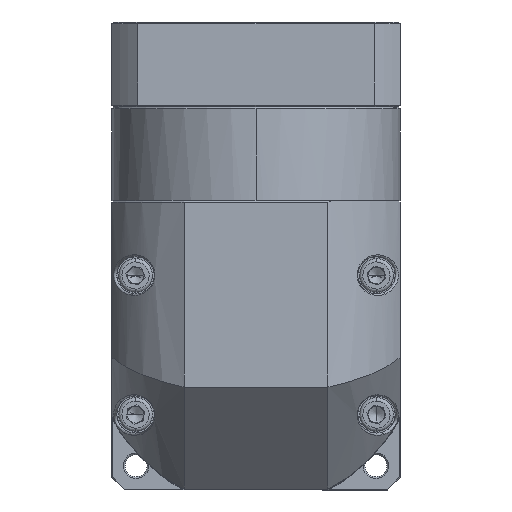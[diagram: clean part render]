
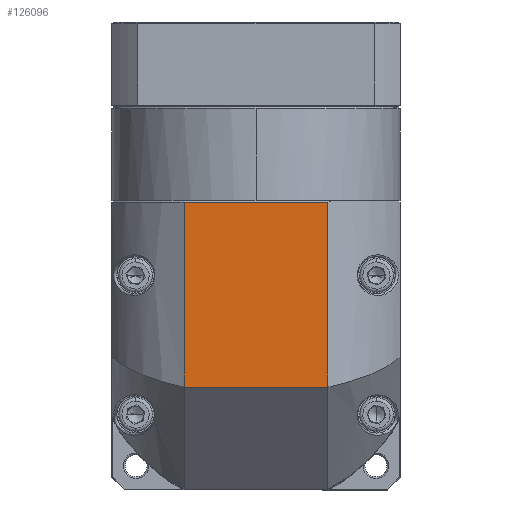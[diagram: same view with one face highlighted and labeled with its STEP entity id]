
A CAD part, top view. The second image highlights one B-rep face of the part: STEP entity #126096.
In plain terms, the highlighted planar face has unit normal (0, 0, 1).
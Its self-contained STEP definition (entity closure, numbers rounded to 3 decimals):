
#1167 = ORIENTED_EDGE ( 'NONE', *, *, #29831, .T. ) ;
#1668 = CARTESIAN_POINT ( 'NONE',  ( -28.494, 39.325, 230.5 ) ) ;
#2042 = PLANE ( 'NONE',  #61054 ) ;
#3050 = LINE ( 'NONE', #80129, #67428 ) ;
#3146 = ORIENTED_EDGE ( 'NONE', *, *, #86541, .F. ) ;
#4681 = LINE ( 'NONE', #126271, #91510 ) ;
#5047 = VERTEX_POINT ( 'NONE', #8766 ) ;
#5861 = EDGE_CURVE ( 'NONE', #5047, #35535, #36202, .T. ) ;
#8743 = ORIENTED_EDGE ( 'NONE', *, *, #102498, .F. ) ;
#8766 = CARTESIAN_POINT ( 'NONE',  ( -49.707, -15.175, 230.5 ) ) ;
#10485 = VECTOR ( 'NONE', #40724, 1000. ) ;
#12798 = CARTESIAN_POINT ( 'NONE',  ( -49.707, 39.325, 230.5 ) ) ;
#23554 = DIRECTION ( 'NONE',  ( 0., -1., 0. ) ) ;
#27882 = LINE ( 'NONE', #1668, #85709 ) ;
#29246 = CARTESIAN_POINT ( 'NONE',  ( -7.281, 39.325, 230.5 ) ) ;
#29831 = EDGE_CURVE ( 'NONE', #46437, #35535, #27882, .T. ) ;
#35535 = VERTEX_POINT ( 'NONE', #12798 ) ;
#36202 = LINE ( 'NONE', #81134, #10485 ) ;
#40501 = VERTEX_POINT ( 'NONE', #126203 ) ;
#40724 = DIRECTION ( 'NONE',  ( 0., 1., 0. ) ) ;
#46437 = VERTEX_POINT ( 'NONE', #29246 ) ;
#54532 = FACE_OUTER_BOUND ( 'NONE', #94872, .T. ) ;
#61054 = AXIS2_PLACEMENT_3D ( 'NONE', #74423, #73979, #64129 ) ;
#64129 = DIRECTION ( 'NONE',  ( 0., 1., 0. ) ) ;
#67428 = VECTOR ( 'NONE', #90402, 1000. ) ;
#73979 = DIRECTION ( 'NONE',  ( 0., 0., 1. ) ) ;
#74423 = CARTESIAN_POINT ( 'NONE',  ( -28.494, -2.675, 230.5 ) ) ;
#80129 = CARTESIAN_POINT ( 'NONE',  ( -28.494, -15.175, 230.5 ) ) ;
#81134 = CARTESIAN_POINT ( 'NONE',  ( -49.707, -60.675, 230.5 ) ) ;
#85709 = VECTOR ( 'NONE', #105396, 1000. ) ;
#86541 = EDGE_CURVE ( 'NONE', #46437, #40501, #4681, .T. ) ;
#90402 = DIRECTION ( 'NONE',  ( -1., 0., 0. ) ) ;
#91510 = VECTOR ( 'NONE', #23554, 1000. ) ;
#94872 = EDGE_LOOP ( 'NONE', ( #98984, #8743, #3146, #1167 ) ) ;
#98984 = ORIENTED_EDGE ( 'NONE', *, *, #5861, .F. ) ;
#102498 = EDGE_CURVE ( 'NONE', #40501, #5047, #3050, .T. ) ;
#105396 = DIRECTION ( 'NONE',  ( -1., 0., 0. ) ) ;
#126096 = ADVANCED_FACE ( 'NONE', ( #54532 ), #2042, .T. ) ;
#126203 = CARTESIAN_POINT ( 'NONE',  ( -7.281, -15.175, 230.5 ) ) ;
#126271 = CARTESIAN_POINT ( 'NONE',  ( -7.281, -60.675, 230.5 ) ) ;
